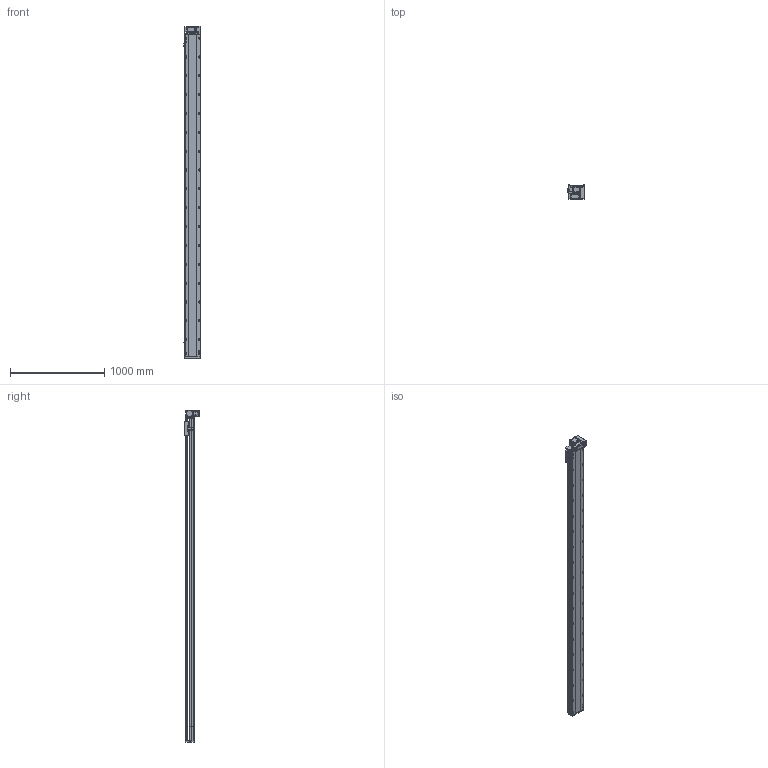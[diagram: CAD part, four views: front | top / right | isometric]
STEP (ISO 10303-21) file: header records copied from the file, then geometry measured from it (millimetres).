
FILE_DESCRIPTION (( 'STEP AP214' ), '1' );
FILE_NAME ('RTB17S-XX-3150-RM-M40-C4.STEP', '2025-12-11T08:36:24', ( '' ), ( '' ), 'SwSTEP 2.0', 'SolidWorks 2018', '' );
FILE_SCHEMA (( 'AUTOMOTIVE_DESIGN' ));
Length unit declared in the file: millimetre
Products named in the file (14): 400W侜督萇儂^RTB17S-XX-XX-RM-M40-C4; RTB17S-RM-々湍釱蚾饜-400W^RTB17S-XX-XX-RM-M40-C4; RTB14-L-008-M20--萇儂啣^RTB17S-RM-々湍釱蚾饜-400W_RTB17S-XX-XX-RM-M40-C4; RTB17S-L-007奻裔^RTB17S-XX-XX-RM-M40-C4; RTB17S-XX-3150-RM-M40-C4; RTB17S-L-004佪裝蹟譫蟀諉釱^RTB17S-XX-XX-RM-M40-C4; RTB14-L-005P--轴承塑胶压盖^RTB17S-RM-皮带座装配-400W_RTB17S-XX-XX-RM-M40-C4; RTH13-BL-012覜茼え俋离^RTB17S-XX-XX-RM-M40-C4; RTB17-R-011菁釱^RTB17S-XX-XX-RM-M40-C4; OMRON EE-SX672 传感器^RTB17S-XX-XX-RM-M40-C4; RTB14-L-017P^RTB17S-RM-々湍釱蚾饜-400W_RTB17S-XX-XX-RM-M40-C4; RTB17S-L-014-T20--々湍釱^RTB17S-RM-々湍釱蚾饜-400W_RTB17S-XX-XX-RM-M40-C4; RTB14-L-018P^RTB17S-RM-々湍釱蚾饜-400W_RTB17S-XX-XX-RM-M40-C4; RTB17S-L-001耜醱啣^RTB17S-XX-XX-RM-M40-C4
Assembly tree (16 placements, depth 3):
  RTB17S-XX-3150-RM-M40-C4
    RTB17-R-011菁釱^RTB17S-XX-XX-RM-M40-C4
    RTB17S-L-007奻裔^RTB17S-XX-XX-RM-M40-C4
    OMRON EE-SX672 传感器^RTB17S-XX-XX-RM-M40-C4  x3
    RTB17S-L-001耜醱啣^RTB17S-XX-XX-RM-M40-C4
    400W侜督萇儂^RTB17S-XX-XX-RM-M40-C4
    RTB17S-L-004佪裝蹟譫蟀諉釱^RTB17S-XX-XX-RM-M40-C4
    RTH13-BL-012覜茼え俋离^RTB17S-XX-XX-RM-M40-C4
    RTB17S-RM-々湍釱蚾饜-400W^RTB17S-XX-XX-RM-M40-C4
      RTB17S-L-014-T20--々湍釱^RTB17S-RM-々湍釱蚾饜-400W_RTB17S-XX-XX-RM-M40-C4
      RTB14-L-005P--轴承塑胶压盖^RTB17S-RM-皮带座装配-400W_RTB17S-XX-XX-RM-M40-C4
      RTB14-L-008-M20--萇儂啣^RTB17S-RM-々湍釱蚾饜-400W_RTB17S-XX-XX-RM-M40-C4
      RTB14-L-017P^RTB17S-RM-々湍釱蚾饜-400W_RTB17S-XX-XX-RM-M40-C4  x2
      RTB14-L-018P^RTB17S-RM-々湍釱蚾饜-400W_RTB17S-XX-XX-RM-M40-C4
Bounding box: 183.5 x 156.5 x 3522.5 mm (x, y, z)
Volume: 29907410.5 mm3; surface area: 3410041.3 mm2
Topology: 15 solids, 15 shells, 2381 faces, 6681 edges, 4365 vertices
Faces by surface type: plane 1090, cylinder 843, bspline 301, cone 139, torus 8
Entity records: 71081 total; most frequent: CARTESIAN_POINT 20286, ORIENTED_EDGE 10206, DIRECTION 9386, EDGE_CURVE 5103, VERTEX_POINT 3353, AXIS2_PLACEMENT_3D 3283, LINE 2820, VECTOR 2820
